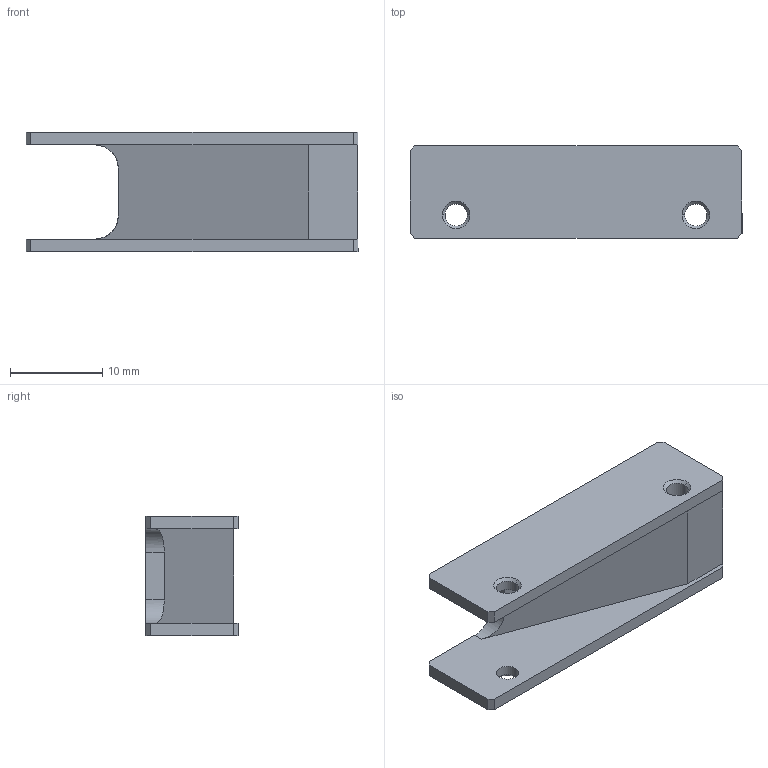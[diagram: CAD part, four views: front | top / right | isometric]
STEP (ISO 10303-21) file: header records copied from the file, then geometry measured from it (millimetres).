
FILE_DESCRIPTION (( 'STEP AP203' ), '1' );
FILE_NAME ('ApplicatorLM13.STEP', '2019-05-08T11:27:08', ( '' ), ( '' ), 'SwSTEP 2.0', 'SolidWorks 2016', '' );
FILE_SCHEMA (( 'CONFIG_CONTROL_DESIGN' ));
Length unit declared in the file: millimetre
Products named in the file (1): ApplicatorLM13
Bounding box: 36 x 10 x 13 mm (x, y, z)
Volume: 2665.6 mm3; surface area: 2099.9 mm2
Topology: 1 solids, 1 shells, 36 faces, 92 edges, 58 vertices
Faces by surface type: plane 20, cone 8, cylinder 8
Entity records: 1167 total; most frequent: CARTESIAN_POINT 193, DIRECTION 186, ORIENTED_EDGE 184, EDGE_CURVE 92, VECTOR 68, LINE 68, AXIS2_PLACEMENT_3D 59, VERTEX_POINT 58
